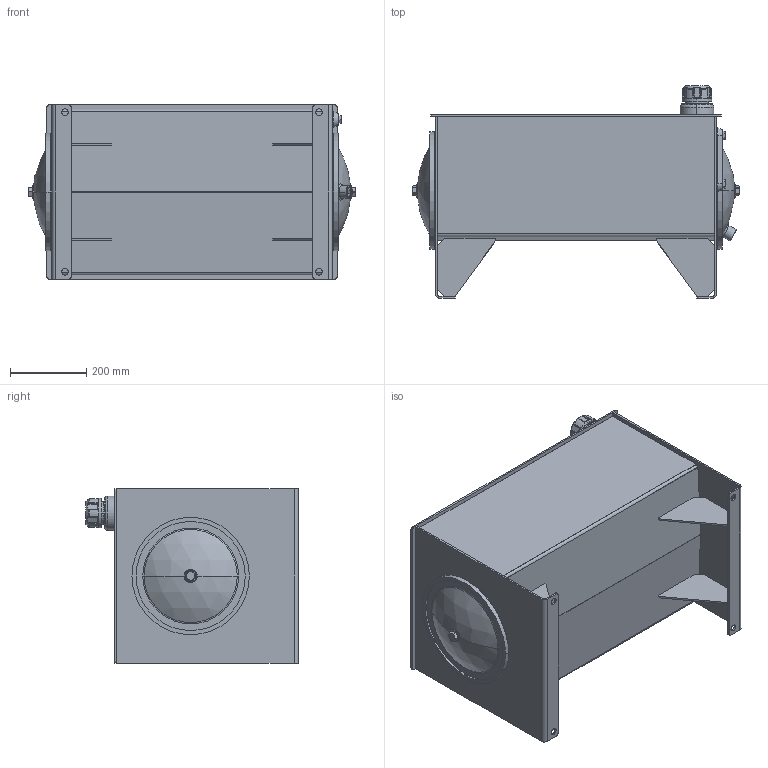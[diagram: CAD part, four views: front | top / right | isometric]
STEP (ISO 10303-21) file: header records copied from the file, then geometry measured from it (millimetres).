
FILE_DESCRIPTION (( 'STEP AP203' ), '1' );
FILE_NAME ('RJIC020-FT.STEP', '2015-01-07T16:44:25', ( '' ), ( '' ), 'SwSTEP 2.0', 'SolidWorks 2014', '' );
FILE_SCHEMA (( 'CONFIG_CONTROL_DESIGN' ));
Length unit declared in the file: inch
Products named in the file (1): RJIC020-FT
Bounding box: 857.79 x 557.96 x 457.2 mm (x, y, z)
Volume: 7824055.4 mm3; surface area: 4226763 mm2
Topology: 24 solids, 24 shells, 743 faces, 1749 edges, 1057 vertices
Faces by surface type: cylinder 268, plane 248, cone 84, torus 60, bspline 51, sphere 32
Entity records: 24330 total; most frequent: CARTESIAN_POINT 7004, DIRECTION 3788, ORIENTED_EDGE 3474, EDGE_CURVE 1737, AXIS2_PLACEMENT_3D 1511, VERTEX_POINT 1057, EDGE_LOOP 852, CIRCLE 818
